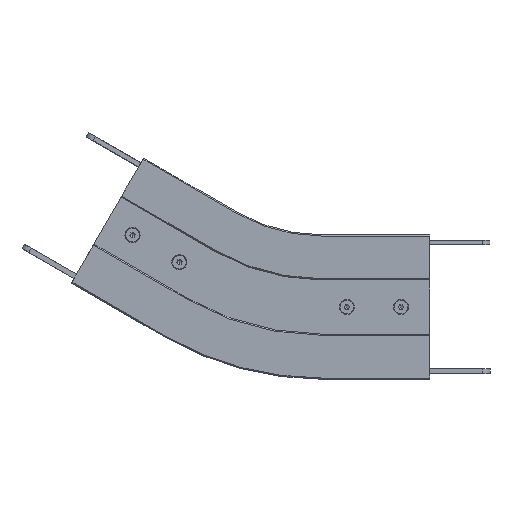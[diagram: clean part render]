
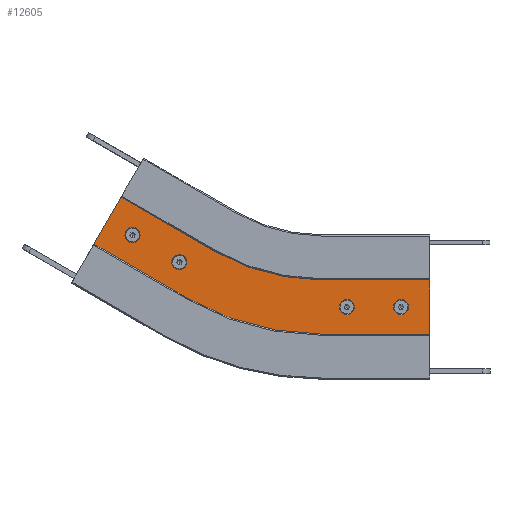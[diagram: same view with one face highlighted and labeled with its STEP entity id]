
A CAD part, front view. The second image highlights one B-rep face of the part: STEP entity #12605.
In plain terms, the highlighted planar face has unit normal (0, -1, 0).
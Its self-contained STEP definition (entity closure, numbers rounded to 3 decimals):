
#1047 = EDGE_LOOP ( 'NONE', ( #35050, #35586 ) ) ;
#2416 = VERTEX_POINT ( 'NONE', #72282 ) ;
#2420 = VERTEX_POINT ( 'NONE', #72286 ) ;
#2483 = VERTEX_POINT ( 'NONE', #72357 ) ;
#7626 = CARTESIAN_POINT ( 'NONE',  ( 738.478, -83.5, 95. ) ) ;
#8410 = EDGE_LOOP ( 'NONE', ( #35588, #35052 ) ) ;
#10257 = CARTESIAN_POINT ( 'NONE',  ( 738.478, -83.5, 25. ) ) ;
#12605 = ADVANCED_FACE ( 'NONE', ( #22673, #22681, #22685, #22675, #22687 ), #27368, .T. ) ;
#13841 = VERTEX_POINT ( 'NONE', #7626 ) ;
#20403 = CARTESIAN_POINT ( 'NONE',  ( 530.978, -83.5, 56.484 ) ) ;
#20456 = CARTESIAN_POINT ( 'NONE',  ( 497.62, -83.5, 119.795 ) ) ;
#20460 = CARTESIAN_POINT ( 'NONE',  ( 523.991, -83.5, 97.295 ) ) ;
#20589 = CARTESIAN_POINT ( 'NONE',  ( 536.591, -83.5, 97.295 ) ) ;
#20992 = CARTESIAN_POINT ( 'NONE',  ( 565.978, -83.5, 117.106 ) ) ;
#21279 = CARTESIAN_POINT ( 'NONE',  ( 720.778, -83.5, 60. ) ) ;
#21284 = CARTESIAN_POINT ( 'NONE',  ( 708.178, -83.5, 60. ) ) ;
#21473 = CARTESIAN_POINT ( 'NONE',  ( 648.478, -83.5, 95. ) ) ;
#22673 = FACE_BOUND ( 'NONE', #74088, .T. ) ;
#22675 = FACE_BOUND ( 'NONE', #1047, .T. ) ;
#22681 = FACE_BOUND ( 'NONE', #8410, .T. ) ;
#22685 = FACE_BOUND ( 'NONE', #50804, .T. ) ;
#22687 = FACE_OUTER_BOUND ( 'NONE', #53101, .T. ) ;
#24856 = VERTEX_POINT ( 'NONE', #10257 ) ;
#27363 = DIRECTION ( 'NONE',  ( 0., -1., 0. ) ) ;
#27368 = PLANE ( 'NONE',  #64803 ) ;
#27370 = CARTESIAN_POINT ( 'NONE',  ( 648.478, -83.5, 25. ) ) ;
#27372 = DIRECTION ( 'NONE',  ( 1., 0., 0. ) ) ;
#28890 = AXIS2_PLACEMENT_3D ( 'NONE', #38962, #38963, #38964 ) ;
#28901 = AXIS2_PLACEMENT_3D ( 'NONE', #39036, #39037, #39038 ) ;
#28903 = AXIS2_PLACEMENT_3D ( 'NONE', #39054, #39055, #39056 ) ;
#28933 = AXIS2_PLACEMENT_3D ( 'NONE', #39257, #39258, #39259 ) ;
#28941 = AXIS2_PLACEMENT_3D ( 'NONE', #39333, #39334, #39335 ) ;
#28949 = AXIS2_PLACEMENT_3D ( 'NONE', #39393, #39394, #39395 ) ;
#28952 = AXIS2_PLACEMENT_3D ( 'NONE', #39405, #39406, #39407 ) ;
#28970 = AXIS2_PLACEMENT_3D ( 'NONE', #40747, #40749, #40751 ) ;
#28973 = AXIS2_PLACEMENT_3D ( 'NONE', #40787, #40789, #40791 ) ;
#28974 = AXIS2_PLACEMENT_3D ( 'NONE', #40803, #40805, #40807 ) ;
#35009 = ORIENTED_EDGE ( 'NONE', *, *, #60265, .F. ) ;
#35010 = ORIENTED_EDGE ( 'NONE', *, *, #60287, .T. ) ;
#35012 = ORIENTED_EDGE ( 'NONE', *, *, #60189, .F. ) ;
#35013 = ORIENTED_EDGE ( 'NONE', *, *, #60148, .T. ) ;
#35026 = ORIENTED_EDGE ( 'NONE', *, *, #60214, .F. ) ;
#35028 = ORIENTED_EDGE ( 'NONE', *, *, #60023, .F. ) ;
#35041 = ORIENTED_EDGE ( 'NONE', *, *, #59743, .F. ) ;
#35044 = ORIENTED_EDGE ( 'NONE', *, *, #60322, .T. ) ;
#35045 = ORIENTED_EDGE ( 'NONE', *, *, #60182, .F. ) ;
#35046 = ORIENTED_EDGE ( 'NONE', *, *, #60199, .T. ) ;
#35050 = ORIENTED_EDGE ( 'NONE', *, *, #60259, .F. ) ;
#35052 = ORIENTED_EDGE ( 'NONE', *, *, #60266, .F. ) ;
#35586 = ORIENTED_EDGE ( 'NONE', *, *, #60062, .F. ) ;
#35588 = ORIENTED_EDGE ( 'NONE', *, *, #60054, .F. ) ;
#35589 = ORIENTED_EDGE ( 'NONE', *, *, #60269, .F. ) ;
#35590 = ORIENTED_EDGE ( 'NONE', *, *, #60208, .F. ) ;
#36523 = LINE ( 'NONE', #37864, #36526 ) ;
#36526 = VECTOR ( 'NONE', #37866, 1000. ) ;
#36969 = CIRCLE ( 'NONE', #28890, 6.3 ) ;
#37027 = CIRCLE ( 'NONE', #28901, 6.3 ) ;
#37041 = CIRCLE ( 'NONE', #28903, 6.3 ) ;
#37864 = CARTESIAN_POINT ( 'NONE',  ( 530.978, -83.5, 56.484 ) ) ;
#37866 = DIRECTION ( 'NONE',  ( -0.866, 0., 0.5 ) ) ;
#38962 = CARTESIAN_POINT ( 'NONE',  ( 714.478, -83.5, 60. ) ) ;
#38963 = DIRECTION ( 'NONE',  ( 0., -1., 0. ) ) ;
#38964 = DIRECTION ( 'NONE',  ( 1., 0., 0. ) ) ;
#39036 = CARTESIAN_POINT ( 'NONE',  ( 669.478, -83.5, 60. ) ) ;
#39037 = DIRECTION ( 'NONE',  ( 0., -1., 0. ) ) ;
#39038 = DIRECTION ( 'NONE',  ( 1., 0., 0. ) ) ;
#39054 = CARTESIAN_POINT ( 'NONE',  ( 491.32, -83.5, 119.795 ) ) ;
#39055 = DIRECTION ( 'NONE',  ( 0., -1., 0. ) ) ;
#39056 = DIRECTION ( 'NONE',  ( 1., 0., 0. ) ) ;
#39257 = CARTESIAN_POINT ( 'NONE',  ( 648.478, -83.5, 260. ) ) ;
#39258 = DIRECTION ( 'NONE',  ( 0., 1., 0. ) ) ;
#39259 = DIRECTION ( 'NONE',  ( -1., 0., 0. ) ) ;
#39333 = CARTESIAN_POINT ( 'NONE',  ( 648.478, -83.5, 260. ) ) ;
#39334 = DIRECTION ( 'NONE',  ( 0., 1., 0. ) ) ;
#39335 = DIRECTION ( 'NONE',  ( -1., 0., 0. ) ) ;
#39347 = CARTESIAN_POINT ( 'NONE',  ( 738.478, -83.5, 25. ) ) ;
#39348 = DIRECTION ( 'NONE',  ( 0., 0., -1. ) ) ;
#39363 = DIRECTION ( 'NONE',  ( 1., 0., 0. ) ) ;
#39369 = CARTESIAN_POINT ( 'NONE',  ( 648.478, -83.5, 25. ) ) ;
#39393 = CARTESIAN_POINT ( 'NONE',  ( 530.291, -83.5, 97.295 ) ) ;
#39394 = DIRECTION ( 'NONE',  ( 0., -1., 0. ) ) ;
#39395 = DIRECTION ( 'NONE',  ( 1., 0., 0. ) ) ;
#39405 = CARTESIAN_POINT ( 'NONE',  ( 714.478, -83.5, 60. ) ) ;
#39406 = DIRECTION ( 'NONE',  ( 0., -1., 0. ) ) ;
#39407 = DIRECTION ( 'NONE',  ( 1., 0., 0. ) ) ;
#39520 = CIRCLE ( 'NONE', #28933, 165. ) ;
#39579 = CIRCLE ( 'NONE', #28941, 235. ) ;
#39591 = LINE ( 'NONE', #39347, #39594 ) ;
#39594 = VECTOR ( 'NONE', #39348, 1000. ) ;
#39601 = LINE ( 'NONE', #39369, #39610 ) ;
#39610 = VECTOR ( 'NONE', #39363, 1000. ) ;
#39623 = CIRCLE ( 'NONE', #28949, 6.3 ) ;
#39633 = CIRCLE ( 'NONE', #28952, 6.3 ) ;
#39705 = CIRCLE ( 'NONE', #28970, 6.3 ) ;
#39707 = LINE ( 'NONE', #40773, #39716 ) ;
#39714 = CIRCLE ( 'NONE', #28973, 6.3 ) ;
#39716 = VECTOR ( 'NONE', #40763, 1000. ) ;
#39720 = CIRCLE ( 'NONE', #28974, 6.3 ) ;
#39750 = LINE ( 'NONE', #40882, #39752 ) ;
#39752 = VECTOR ( 'NONE', #40885, 1000. ) ;
#39805 = LINE ( 'NONE', #41099, #39808 ) ;
#39808 = VECTOR ( 'NONE', #41101, 1000. ) ;
#40747 = CARTESIAN_POINT ( 'NONE',  ( 491.32, -83.5, 119.795 ) ) ;
#40749 = DIRECTION ( 'NONE',  ( 0., -1., 0. ) ) ;
#40751 = DIRECTION ( 'NONE',  ( 1., 0., 0. ) ) ;
#40763 = DIRECTION ( 'NONE',  ( 1., 0., 0. ) ) ;
#40773 = CARTESIAN_POINT ( 'NONE',  ( 648.478, -83.5, 95. ) ) ;
#40787 = CARTESIAN_POINT ( 'NONE',  ( 669.478, -83.5, 60. ) ) ;
#40789 = DIRECTION ( 'NONE',  ( 0., -1., 0. ) ) ;
#40791 = DIRECTION ( 'NONE',  ( 1., 0., 0. ) ) ;
#40803 = CARTESIAN_POINT ( 'NONE',  ( 530.291, -83.5, 97.295 ) ) ;
#40805 = DIRECTION ( 'NONE',  ( 0., -1., 0. ) ) ;
#40807 = DIRECTION ( 'NONE',  ( 1., 0., 0. ) ) ;
#40882 = CARTESIAN_POINT ( 'NONE',  ( 565.978, -83.5, 117.106 ) ) ;
#40885 = DIRECTION ( 'NONE',  ( -0.866, 0., 0.5 ) ) ;
#41099 = CARTESIAN_POINT ( 'NONE',  ( 453.036, -83.5, 101.484 ) ) ;
#41101 = DIRECTION ( 'NONE',  ( -0.5, 0., -0.866 ) ) ;
#45898 = VERTEX_POINT ( 'NONE', #70034 ) ;
#46337 = VERTEX_POINT ( 'NONE', #70291 ) ;
#46594 = VERTEX_POINT ( 'NONE', #70436 ) ;
#50804 = EDGE_LOOP ( 'NONE', ( #35589, #35590 ) ) ;
#53101 = EDGE_LOOP ( 'NONE', ( #35012, #35009, #35013, #35010, #35044, #35041, #35045, #35046 ) ) ;
#56106 = VERTEX_POINT ( 'NONE', #20403 ) ;
#56130 = VERTEX_POINT ( 'NONE', #20460 ) ;
#56133 = VERTEX_POINT ( 'NONE', #20456 ) ;
#56175 = VERTEX_POINT ( 'NONE', #20589 ) ;
#56416 = VERTEX_POINT ( 'NONE', #20992 ) ;
#56623 = VERTEX_POINT ( 'NONE', #21279 ) ;
#56625 = VERTEX_POINT ( 'NONE', #21284 ) ;
#56753 = VERTEX_POINT ( 'NONE', #21473 ) ;
#59743 = EDGE_CURVE ( 'NONE', #56106, #46594, #36523, .T. ) ;
#60023 = EDGE_CURVE ( 'NONE', #56625, #56623, #36969, .T. ) ;
#60054 = EDGE_CURVE ( 'NONE', #2420, #2416, #37027, .T. ) ;
#60062 = EDGE_CURVE ( 'NONE', #46337, #56133, #37041, .T. ) ;
#60148 = EDGE_CURVE ( 'NONE', #56753, #56416, #39520, .T. ) ;
#60182 = EDGE_CURVE ( 'NONE', #45898, #56106, #39579, .T. ) ;
#60189 = EDGE_CURVE ( 'NONE', #13841, #24856, #39591, .T. ) ;
#60199 = EDGE_CURVE ( 'NONE', #45898, #24856, #39601, .T. ) ;
#60208 = EDGE_CURVE ( 'NONE', #56130, #56175, #39623, .T. ) ;
#60214 = EDGE_CURVE ( 'NONE', #56623, #56625, #39633, .T. ) ;
#60259 = EDGE_CURVE ( 'NONE', #56133, #46337, #39705, .T. ) ;
#60265 = EDGE_CURVE ( 'NONE', #56753, #13841, #39707, .T. ) ;
#60266 = EDGE_CURVE ( 'NONE', #2416, #2420, #39714, .T. ) ;
#60269 = EDGE_CURVE ( 'NONE', #56175, #56130, #39720, .T. ) ;
#60287 = EDGE_CURVE ( 'NONE', #56416, #2483, #39750, .T. ) ;
#60322 = EDGE_CURVE ( 'NONE', #2483, #46594, #39805, .T. ) ;
#64803 = AXIS2_PLACEMENT_3D ( 'NONE', #27370, #27363, #27372 ) ;
#70034 = CARTESIAN_POINT ( 'NONE',  ( 648.478, -83.5, 25. ) ) ;
#70291 = CARTESIAN_POINT ( 'NONE',  ( 485.02, -83.5, 119.795 ) ) ;
#70436 = CARTESIAN_POINT ( 'NONE',  ( 453.036, -83.5, 101.484 ) ) ;
#72282 = CARTESIAN_POINT ( 'NONE',  ( 663.178, -83.5, 60. ) ) ;
#72286 = CARTESIAN_POINT ( 'NONE',  ( 675.778, -83.5, 60. ) ) ;
#72357 = CARTESIAN_POINT ( 'NONE',  ( 488.036, -83.5, 162.106 ) ) ;
#74088 = EDGE_LOOP ( 'NONE', ( #35026, #35028 ) ) ;
